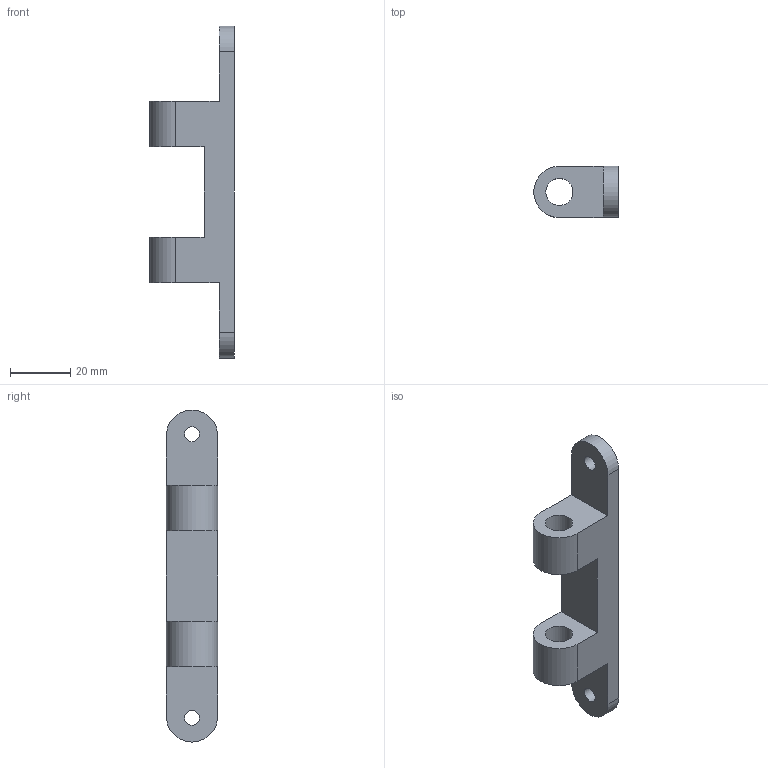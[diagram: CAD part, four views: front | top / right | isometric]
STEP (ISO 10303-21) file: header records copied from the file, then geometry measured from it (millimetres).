
FILE_DESCRIPTION(/* description */ (''),/* implementation_level */ '2;1');
FILE_NAME(/* name */ 'E:/3D Design/3D Prints/Tablet Wall Mount/STEP Files/Wall Adapter.stp',/* time_stamp */ '2017-09-21T22:04:17-05:00',/* author */ (''),/* organization */ (''),/* preprocessor_version */ 'ST-DEVELOPER v16.13',/* originating_system */ 'Autodesk Translation Framework v6.1.1.50',/* authorisation */ '');
FILE_SCHEMA (('AUTOMOTIVE_DESIGN { 1 0 10303 214 3 1 1 }'));
Length unit declared in the file: millimetre
Products named in the file (1): Wall Adapter
Bounding box: 28 x 17 x 110 mm (x, y, z)
Volume: 20284.7 mm3; surface area: 8216.4 mm2
Topology: 1 solids, 1 shells, 18 faces, 48 edges, 32 vertices
Faces by surface type: plane 10, cylinder 8
Full cylindrical faces by diameter (mm): 5 x2, 9 x2
Entity records: 586 total; most frequent: DIRECTION 98, CARTESIAN_POINT 95, ORIENTED_EDGE 88, EDGE_CURVE 44, AXIS2_PLACEMENT_3D 35, VERTEX_POINT 32, EDGE_LOOP 30, LINE 28
